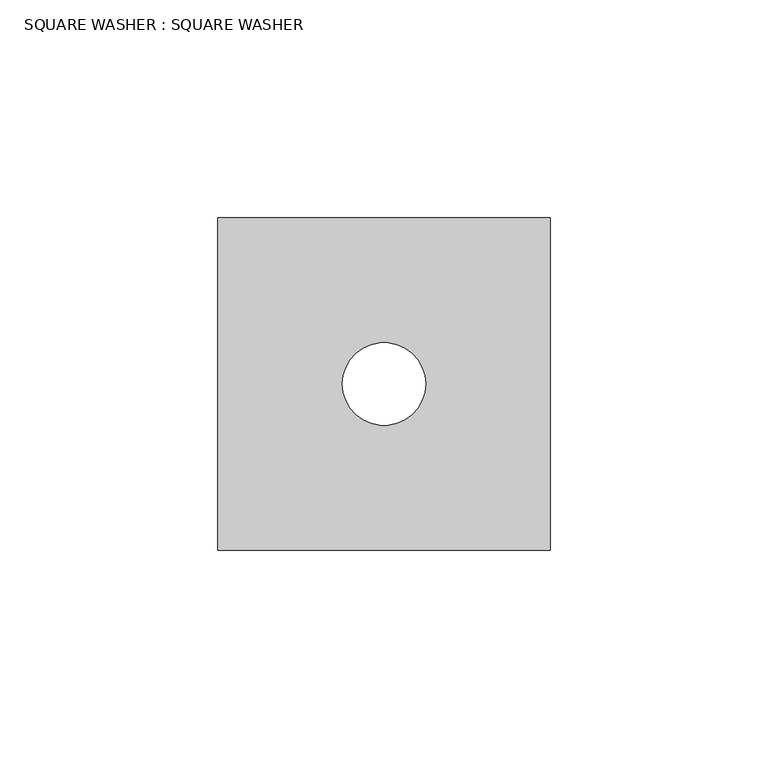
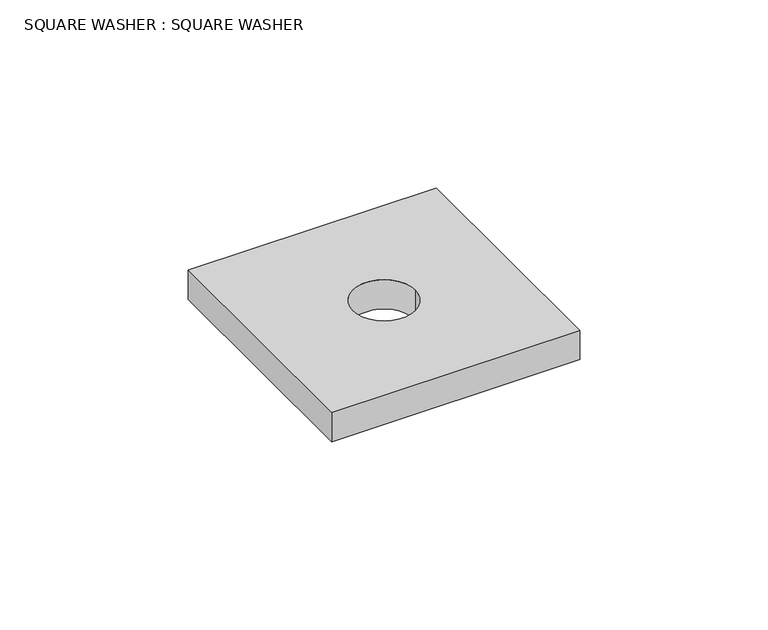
"""IFC4 building model written with IfcOpenShell, lengths in millimetres: proxy geometry, SQUARE WASHER : SQUARE WASHER."""

import ifcopenshell
import ifcopenshell.guid

model = None  # the IFC model being written
_history = None  # IfcOwnerHistory: only IFC2X3 demands one
_inside = {}  # id of a spatial element -> (the spatial element, [elements in it])
_under = {}  # id of a project, library or spatial element -> (it, [spatial elements below it])
_declared = {}  # id of a project -> (the project, [libraries it declares])
_typed = {}  # id of a type object -> (the type object, [elements of that type])
_made_of = {}  # id of a material, layer set ... -> (it, [elements and type objects made of it])


def new_model(schema):
    """Start an empty IFC model of exactly this schema.

    Asked for "IFC4X3", IfcOpenShell would pick the latest addendum, in which some entities
    have other attributes; the version numbers below select the first issue.
    IFC2X3 requires an IfcOwnerHistory on every rooted entity: one is made here for all.
    """
    global model, _history
    if schema == "IFC4X3":
        model = ifcopenshell.file(schema_version=(4, 3, 0, 0))
    else:
        model = ifcopenshell.file(schema=schema)
    _inside.clear()
    _under.clear()
    _declared.clear()
    _typed.clear()
    _made_of.clear()
    _history = None
    if model.schema == "IFC2X3":
        org = make("IfcOrganization", Name="unknown")
        user = make(
            "IfcPersonAndOrganization",
            ThePerson=make("IfcPerson", FamilyName="unknown"),
            TheOrganization=org,
        )
        app = make(
            "IfcApplication",
            ApplicationDeveloper=org,
            Version="unknown",
            ApplicationFullName="unknown",
            ApplicationIdentifier="unknown",
        )
        _history = make(
            "IfcOwnerHistory",
            OwningUser=user,
            OwningApplication=app,
            ChangeAction="ADDED",
            CreationDate=0,
        )
    return model


def make(cls, **values):
    """One entity of the class cls with the attributes given. An attribute that is None is left unset."""
    return model.create_entity(
        cls, **{name: value for name, value in values.items() if value is not None}
    )


def rooted(cls, **values):
    """An entity with a GlobalId (a new one), such as an element, a storey or a relation."""
    return make(cls, GlobalId=ifcopenshell.guid.new(), OwnerHistory=_history, **values)


def si_unit(unit_type, name, prefix=None):
    """IfcSIUnit, for example si_unit("LENGTHUNIT", "METRE", prefix="MILLI")."""
    return make("IfcSIUnit", UnitType=unit_type, Prefix=prefix, Name=name)


def assignment(units):
    """IfcUnitAssignment: the units of a project."""
    return None if units is None else make("IfcUnitAssignment", Units=units)


def point(xyz):
    """IfcCartesianPoint."""
    return None if xyz is None else make("IfcCartesianPoint", Coordinates=xyz)


def direction(xyz):
    """IfcDirection."""
    return None if xyz is None else make("IfcDirection", DirectionRatios=xyz)


def frame(location, z_axis=None, x_axis=None):
    """IfcAxis2Placement3D, a coordinate frame: its origin and axes. An axis left out is left unset."""
    return make(
        "IfcAxis2Placement3D",
        Location=point(location),
        Axis=direction(z_axis),
        RefDirection=direction(x_axis),
    )


def frame_2d(location, x_axis=None):
    """IfcAxis2Placement2D, a coordinate frame in the plane: its origin and x axis."""
    return make(
        "IfcAxis2Placement2D", Location=point(location), RefDirection=direction(x_axis)
    )


def origin():
    """The frame at (0, 0, 0) with its axes left unset."""
    return frame((0.0, 0.0, 0.0))


def origin_with_axes():
    """The frame at (0, 0, 0) with the z axis (0, 0, 1) and the x axis (1, 0, 0) written out."""
    return frame((0.0, 0.0, 0.0), z_axis=(0.0, 0.0, 1.0), x_axis=(1.0, 0.0, 0.0))


def origin_2d():
    """The frame at (0, 0) in the plane with its x axis left unset."""
    return frame_2d((0.0, 0.0))


def place(relative_to, where):
    """IfcLocalPlacement: puts the frame where relative to a parent placement (None: the world)."""
    return make(
        "IfcLocalPlacement", PlacementRelTo=relative_to, RelativePlacement=where
    )


def context(
    kind, dimensions, precision=None, world=None, true_north=None, identifier=None
):
    """IfcGeometricRepresentationContext, for example the 3D "Model" context."""
    return make(
        "IfcGeometricRepresentationContext",
        ContextIdentifier=identifier,
        ContextType=kind,
        CoordinateSpaceDimension=dimensions,
        Precision=precision,
        WorldCoordinateSystem=world,
        TrueNorth=true_north,
    )


def project(units=None, contexts=None):
    """IfcProject with its units and contexts."""
    return rooted(
        "IfcProject",
        Name="project",
        RepresentationContexts=contexts,
        UnitsInContext=assignment(units),
    )


def spatial(cls, under=None, at=None, **own):
    """A site, building, storey or space (cls), placed at a placement, below another one or the project."""
    s = rooted(cls, ObjectPlacement=at, **own)
    if under is not None:
        _under.setdefault(under.id(), (under, []))[1].append(s)
    return s


def polyline(points):
    """IfcPolyline through the points."""
    return make("IfcPolyline", Points=[point(p) for p in points])


def circle_curve(where, radius):
    """IfcCircle in the frame where."""
    return make("IfcCircle", Position=where, Radius=radius)


def trimmed(basis, trim1, trim2, sense, master):
    """IfcTrimmedCurve: the piece of a basis curve between two trims."""
    return make(
        "IfcTrimmedCurve",
        BasisCurve=basis,
        Trim1=trim1,
        Trim2=trim2,
        SenseAgreement=sense,
        MasterRepresentation=master,
    )


def segment(curve, same_sense, transition):
    """IfcCompositeCurveSegment."""
    return make(
        "IfcCompositeCurveSegment",
        Transition=transition,
        SameSense=same_sense,
        ParentCurve=curve,
    )


def composite_curve(segments, self_intersect=None):
    """IfcCompositeCurve: segments joined end to end."""
    return make("IfcCompositeCurve", Segments=segments, SelfIntersect=self_intersect)


def outline(outer, holes=None, kind="AREA"):
    """IfcArbitraryClosedProfileDef: a profile drawn as a closed curve; with holes, ...WithVoids."""
    if holes is None:
        return make("IfcArbitraryClosedProfileDef", ProfileType=kind, OuterCurve=outer)
    return make(
        "IfcArbitraryProfileDefWithVoids",
        ProfileType=kind,
        OuterCurve=outer,
        InnerCurves=holes,
    )


def extrude(swept, where, along, depth):
    """IfcExtrudedAreaSolid: the profile swept, set in the frame where, extruded along a direction by depth."""
    return make(
        "IfcExtrudedAreaSolid",
        SweptArea=swept,
        Position=where,
        ExtrudedDirection=direction(along),
        Depth=depth,
    )


def shape(context_of_items, identifier, shape_type, items):
    """IfcShapeRepresentation: the items that make up one representation, for example the "Body"."""
    return make(
        "IfcShapeRepresentation",
        ContextOfItems=context_of_items,
        RepresentationIdentifier=identifier,
        RepresentationType=shape_type,
        Items=items,
    )


def source(mapping_origin, context_of_items, identifier, shape_type, items):
    """IfcRepresentationMap: a shape defined once, which mapped items show again and again."""
    return make(
        "IfcRepresentationMap",
        MappingOrigin=mapping_origin,
        MappedRepresentation=shape(context_of_items, identifier, shape_type, items),
    )


def transform(
    local_origin,
    x_axis=None,
    y_axis=None,
    z_axis=None,
    scale=None,
    scale2=None,
    scale3=None,
    uniform=True,
):
    """IfcCartesianTransformationOperator3D, or its non-uniform kind. x_axis, y_axis, z_axis: its Axis1, 2, 3."""
    if uniform:
        return make(
            "IfcCartesianTransformationOperator3D",
            Axis1=direction(x_axis),
            Axis2=direction(y_axis),
            LocalOrigin=point(local_origin),
            Scale=scale,
            Axis3=direction(z_axis),
        )
    return make(
        "IfcCartesianTransformationOperator3DnonUniform",
        Axis1=direction(x_axis),
        Axis2=direction(y_axis),
        LocalOrigin=point(local_origin),
        Scale=scale,
        Axis3=direction(z_axis),
        Scale2=scale2,
        Scale3=scale3,
    )


def mapped(mapping_source, mapping_target):
    """IfcMappedItem: shows the shape of a source again, moved by a transform."""
    return make(
        "IfcMappedItem", MappingSource=mapping_source, MappingTarget=mapping_target
    )


def made_of(thing, what):
    """Note that an element or type object is made of a material, layer set ...; save() writes the relation."""
    if what is not None:
        _made_of.setdefault(what.id(), (what, []))[1].append(thing)
    return thing


def element(
    cls,
    number,
    at=None,
    inside=None,
    cuts=None,
    type_object=None,
    material=None,
    context=None,
    identifier="Body",
    shape_type=None,
    held_by="IfcProductDefinitionShape",
    body=None,
    shapes=None,
    **own,
):
    """One element of the class cls, such as IfcWall. Its Tag is "e" and its number.

    at: its placement. inside: the storey or other place that contains it. cuts: it is an
    opening in that element (IfcRelVoidsElement). A single representation is given by context,
    identifier, shape_type and body (its items); several are given by shapes. held_by: the class
    of the entity that holds the representations. save() writes the other relations.
    """
    e = rooted(cls, Tag="e%d" % number, ObjectPlacement=at, **own)
    if body is not None:
        shapes = [shape(context, identifier, shape_type, body)]
    if shapes is not None:
        e.Representation = make(held_by, Representations=shapes)
    if inside is not None:
        _inside.setdefault(inside.id(), (inside, []))[1].append(e)
    if cuts is not None:
        rooted(
            "IfcRelVoidsElement", RelatingBuildingElement=cuts, RelatedOpeningElement=e
        )
    if type_object is not None:
        _typed.setdefault(type_object.id(), (type_object, []))[1].append(e)
    return made_of(e, material)


def aggregate(whole, parts):
    """IfcRelAggregates: a whole, such as a stair, and the parts it consists of."""
    return rooted("IfcRelAggregates", RelatingObject=whole, RelatedObjects=parts)


def save(model, path):
    """Write the relations noted so far, then the file.

    IfcRelAggregates (storeys below a building ...), IfcRelContainedInSpatialStructure (elements
    in a storey), IfcRelDefinesByType, IfcRelAssociatesMaterial and IfcRelDeclares: one each for
    every whole, place, type object, material and project.
    """
    for whole, parts in _under.values():
        aggregate(whole, parts)
    for where, things in _inside.values():
        rooted(
            "IfcRelContainedInSpatialStructure",
            RelatedElements=things,
            RelatingStructure=where,
        )
    for kind, things in _typed.values():
        rooted("IfcRelDefinesByType", RelatedObjects=things, RelatingType=kind)
    for what, things in _made_of.values():
        rooted("IfcRelAssociatesMaterial", RelatedObjects=things, RelatingMaterial=what)
    for by, libraries in _declared.values():
        rooted("IfcRelDeclares", RelatingContext=by, RelatedDefinitions=libraries)
    model.write(path)


def square_washer_square_washer_7615696c(model_context):
    return source(origin(), model_context, "Body", "SweptSolid", [
        extrude(outline(polyline([(38.1, 38.1), (38.1, -38.1), (-38.1, -38.1), (-38.1, 38.1), (38.1, 38.1)]), holes=[composite_curve([segment(trimmed(circle_curve(origin_2d(), 9.525), [point((-9.525, 0.0))], [point((9.525, 0.0))], True, "CARTESIAN"), True, "CONTINUOUS"), segment(trimmed(circle_curve(origin_2d(), 9.525), [point((9.525, 0.0))], [point((-9.525, 0.0))], True, "CARTESIAN"), True, "CONTINUOUS")], self_intersect=False)]), origin_with_axes(), (0.0, 0.0, 1.0), 9.525),
    ])


if __name__ == "__main__":
    model = new_model("IFC4")
    model_context = context("Model", 3, world=origin())
    ifc_project = project(units=[si_unit("LENGTHUNIT", "METRE", prefix="MILLI")], contexts=[model_context])
    site = spatial("IfcSite", under=ifc_project)
    building = spatial("IfcBuilding", under=site)
    placement = place(None, origin())
    square_washer_square_washer_shape = square_washer_square_washer_7615696c(model_context)
    element("IfcBuildingElementProxy", 1, Name="SQUARE WASHER : SQUARE WASHER", ObjectType="SQUARE WASHER : SQUARE WASHER", at=placement, inside=building, context=model_context, shape_type="MappedRepresentation", body=[
        mapped(square_washer_square_washer_shape, transform((0.0, 0.0, 0.0), x_axis=(1.0, 0.0, 0.0), y_axis=(0.0, 1.0, 0.0), z_axis=(0.0, 0.0, 1.0))),
    ])
    save(model, "model.ifc")
